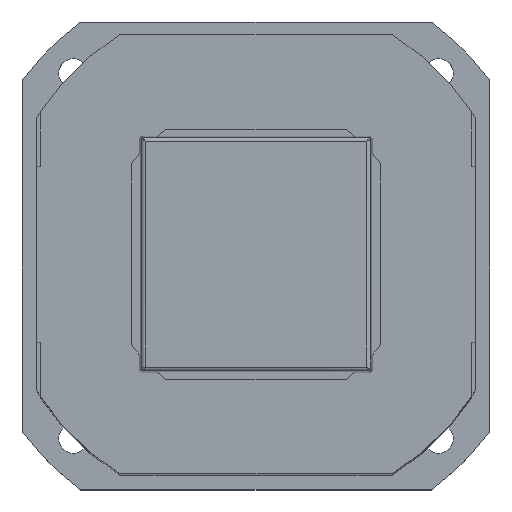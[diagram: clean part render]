
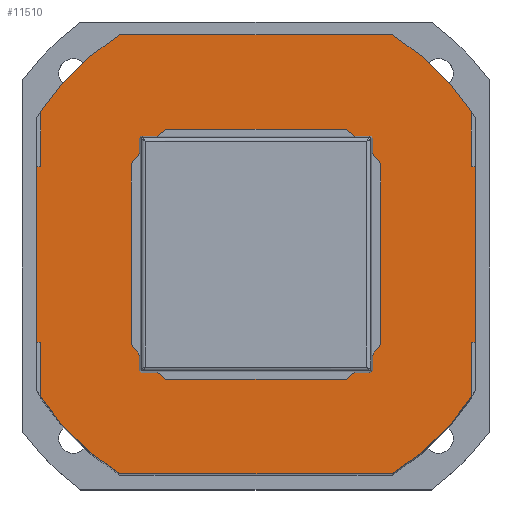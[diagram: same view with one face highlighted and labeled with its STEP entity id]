
A CAD part, top view. The second image highlights one B-rep face of the part: STEP entity #11510.
In plain terms, the highlighted planar face has unit normal (0, 0, 1).
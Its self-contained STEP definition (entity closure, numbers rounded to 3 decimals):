
#3360=CIRCLE('',#12785,132.5);
#3361=CIRCLE('',#12786,132.5);
#3362=CIRCLE('',#12787,132.5);
#3363=CIRCLE('',#12788,132.5);
#4181=VERTEX_POINT('',#16858);
#4182=VERTEX_POINT('',#16859);
#4183=VERTEX_POINT('',#16861);
#4184=VERTEX_POINT('',#16863);
#4185=VERTEX_POINT('',#16865);
#4186=VERTEX_POINT('',#16867);
#4187=VERTEX_POINT('',#16869);
#4188=VERTEX_POINT('',#16871);
#4189=VERTEX_POINT('',#16873);
#4190=VERTEX_POINT('',#16875);
#4191=VERTEX_POINT('',#16877);
#4192=VERTEX_POINT('',#16879);
#4193=VERTEX_POINT('',#16881);
#4194=VERTEX_POINT('',#16883);
#4195=VERTEX_POINT('',#16885);
#4196=VERTEX_POINT('',#16887);
#5146=LINE('',#16857,#13955);
#5147=LINE('',#16862,#13956);
#5148=LINE('',#16864,#13957);
#5149=LINE('',#16866,#13958);
#5150=LINE('',#16868,#13959);
#5151=LINE('',#16870,#13960);
#5152=LINE('',#16874,#13961);
#5153=LINE('',#16878,#13962);
#5154=LINE('',#16880,#13963);
#5155=LINE('',#16882,#13964);
#5156=LINE('',#16884,#13965);
#5157=LINE('',#16886,#13966);
#6171=EDGE_CURVE('',#4181,#4182,#5146,.T.);
#6172=EDGE_CURVE('',#4183,#4181,#3360,.T.);
#6173=EDGE_CURVE('',#4184,#4183,#5147,.T.);
#6174=EDGE_CURVE('',#4185,#4184,#5148,.T.);
#6175=EDGE_CURVE('',#4186,#4185,#5149,.T.);
#6176=EDGE_CURVE('',#4187,#4186,#5150,.T.);
#6177=EDGE_CURVE('',#4188,#4187,#5151,.T.);
#6178=EDGE_CURVE('',#4189,#4188,#3361,.T.);
#6179=EDGE_CURVE('',#4190,#4189,#5152,.T.);
#6180=EDGE_CURVE('',#4191,#4190,#3362,.T.);
#6181=EDGE_CURVE('',#4192,#4191,#5153,.T.);
#6182=EDGE_CURVE('',#4193,#4192,#5154,.T.);
#6183=EDGE_CURVE('',#4194,#4193,#5155,.T.);
#6184=EDGE_CURVE('',#4195,#4194,#5156,.T.);
#6185=EDGE_CURVE('',#4196,#4195,#5157,.T.);
#6186=EDGE_CURVE('',#4182,#4196,#3363,.T.);
#8282=ORIENTED_EDGE('',*,*,#6171,.F.);
#8283=ORIENTED_EDGE('',*,*,#6172,.F.);
#8284=ORIENTED_EDGE('',*,*,#6173,.F.);
#8285=ORIENTED_EDGE('',*,*,#6174,.F.);
#8286=ORIENTED_EDGE('',*,*,#6175,.F.);
#8287=ORIENTED_EDGE('',*,*,#6176,.F.);
#8288=ORIENTED_EDGE('',*,*,#6177,.F.);
#8289=ORIENTED_EDGE('',*,*,#6178,.F.);
#8290=ORIENTED_EDGE('',*,*,#6179,.F.);
#8291=ORIENTED_EDGE('',*,*,#6180,.F.);
#8292=ORIENTED_EDGE('',*,*,#6181,.F.);
#8293=ORIENTED_EDGE('',*,*,#6182,.F.);
#8294=ORIENTED_EDGE('',*,*,#6183,.F.);
#8295=ORIENTED_EDGE('',*,*,#6184,.F.);
#8296=ORIENTED_EDGE('',*,*,#6185,.F.);
#8297=ORIENTED_EDGE('',*,*,#6186,.F.);
#10014=EDGE_LOOP('',(#8282,#8283,#8284,#8285,#8286,#8287,#8288,#8289,#8290,
#8291,#8292,#8293,#8294,#8295,#8296,#8297));
#10816=FACE_BOUND('',#10014,.T.);
#11510=ADVANCED_FACE('',(#10816),#14467,.T.);
#12784=AXIS2_PLACEMENT_3D('',#16856,#21533,$);
#12785=AXIS2_PLACEMENT_3D('',#16860,#21535,#21536);
#12786=AXIS2_PLACEMENT_3D('',#16872,#21542,#21543);
#12787=AXIS2_PLACEMENT_3D('',#16876,#21545,#21546);
#12788=AXIS2_PLACEMENT_3D('',#16888,#21552,#21553);
#13955=VECTOR('',#21534,1.);
#13956=VECTOR('',#21537,1.);
#13957=VECTOR('',#21538,1.);
#13958=VECTOR('',#21539,1.);
#13959=VECTOR('',#21540,1.);
#13960=VECTOR('',#21541,1.);
#13961=VECTOR('',#21544,1.);
#13962=VECTOR('',#21547,1.);
#13963=VECTOR('',#21548,1.);
#13964=VECTOR('',#21549,1.);
#13965=VECTOR('',#21550,1.);
#13966=VECTOR('',#21551,1.);
#14467=PLANE('',#12784);
#16856=CARTESIAN_POINT('',(0.,0.,57.));
#16857=CARTESIAN_POINT('',(-70.,-112.5,57.));
#16858=CARTESIAN_POINT('',(70.,-112.5,57.));
#16859=CARTESIAN_POINT('',(-70.,-112.5,57.));
#16860=CARTESIAN_POINT('',(0.,0.,57.));
#16861=CARTESIAN_POINT('',(110.5,-73.116,57.));
#16862=CARTESIAN_POINT('',(110.5,-73.116,57.));
#16863=CARTESIAN_POINT('',(110.5,-45.,57.));
#16864=CARTESIAN_POINT('',(110.5,-45.,57.));
#16865=CARTESIAN_POINT('',(112.5,-45.,57.));
#16866=CARTESIAN_POINT('',(112.5,-45.,57.));
#16867=CARTESIAN_POINT('',(112.5,45.,57.));
#16868=CARTESIAN_POINT('',(112.5,45.,57.));
#16869=CARTESIAN_POINT('',(110.5,45.,57.));
#16870=CARTESIAN_POINT('',(110.5,45.,57.));
#16871=CARTESIAN_POINT('',(110.5,73.116,57.));
#16872=CARTESIAN_POINT('',(0.,0.,57.));
#16873=CARTESIAN_POINT('',(70.,112.5,57.));
#16874=CARTESIAN_POINT('',(70.,112.5,57.));
#16875=CARTESIAN_POINT('',(-70.,112.5,57.));
#16876=CARTESIAN_POINT('',(0.,0.,57.));
#16877=CARTESIAN_POINT('',(-110.5,73.116,57.));
#16878=CARTESIAN_POINT('',(-110.5,73.116,57.));
#16879=CARTESIAN_POINT('',(-110.5,45.,57.));
#16880=CARTESIAN_POINT('',(-110.5,45.,57.));
#16881=CARTESIAN_POINT('',(-112.5,45.,57.));
#16882=CARTESIAN_POINT('',(-112.5,45.,57.));
#16883=CARTESIAN_POINT('',(-112.5,-45.,57.));
#16884=CARTESIAN_POINT('',(-112.5,-45.,57.));
#16885=CARTESIAN_POINT('',(-110.5,-45.,57.));
#16886=CARTESIAN_POINT('',(-110.5,-45.,57.));
#16887=CARTESIAN_POINT('',(-110.5,-73.116,57.));
#16888=CARTESIAN_POINT('',(0.,0.,57.));
#21533=DIRECTION('',(0.,0.,1.));
#21534=DIRECTION('',(-1.,0.,0.));
#21535=DIRECTION('',(0.,0.,-1.));
#21536=DIRECTION('',(132.5,0.,0.));
#21537=DIRECTION('',(0.,-1.,0.));
#21538=DIRECTION('',(-1.,0.,0.));
#21539=DIRECTION('',(0.,-1.,0.));
#21540=DIRECTION('',(1.,0.,0.));
#21541=DIRECTION('',(0.,-1.,0.));
#21542=DIRECTION('',(0.,0.,-1.));
#21543=DIRECTION('',(132.5,0.,0.));
#21544=DIRECTION('',(1.,0.,0.));
#21545=DIRECTION('',(0.,0.,-1.));
#21546=DIRECTION('',(132.5,0.,0.));
#21547=DIRECTION('',(0.,1.,0.));
#21548=DIRECTION('',(1.,0.,0.));
#21549=DIRECTION('',(0.,1.,0.));
#21550=DIRECTION('',(-1.,0.,0.));
#21551=DIRECTION('',(0.,1.,0.));
#21552=DIRECTION('',(0.,0.,-1.));
#21553=DIRECTION('',(132.5,0.,0.));
